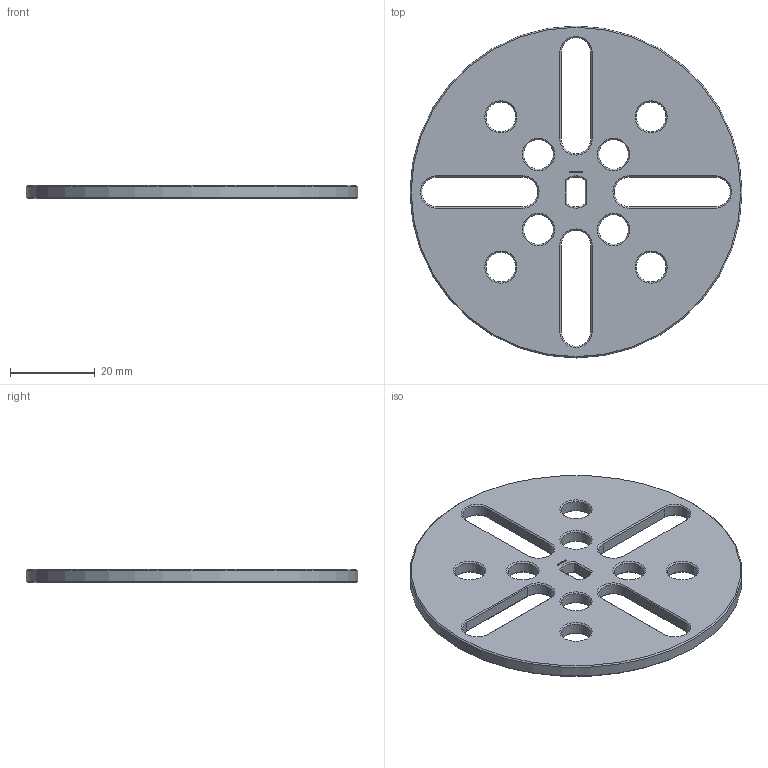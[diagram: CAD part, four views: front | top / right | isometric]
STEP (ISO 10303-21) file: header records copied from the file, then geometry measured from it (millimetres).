
FILE_DESCRIPTION(/* description */ (''),/* implementation_level */ '2;1');
FILE_NAME(/* name */ '/Users/paulokiefe/Desktop/STEMFIE/Fasteners/Washers/Fixed/Washer WSR FXD BU0.25x6.25 - SPN-WSR-0022 v1.step',/* time_stamp */ '2020-09-27T23:19:29+02:00',/* author */ (''),/* organization */ (''),/* preprocessor_version */ 'ST-DEVELOPER v18.1',/* originating_system */ 'Autodesk Translation Framework v9.3.0.1241',/* authorisation */ '');
FILE_SCHEMA (('AUTOMOTIVE_DESIGN { 1 0 10303 214 3 1 1 }'));
Length unit declared in the file: millimetre
Products named in the file (1): Washer WSR FXD BU0.25x6.25 - SPN-WSR-0022
Bounding box: 78.12 x 78.12 x 3.12 mm (x, y, z)
Volume: 11607.3 mm3; surface area: 9392.4 mm2
Topology: 1 solids, 1 shells, 333 faces, 899 edges, 580 vertices
Faces by surface type: plane 276, cone 38, cylinder 19
Full cylindrical faces by diameter (mm): 7 x8, 78.125 x1
Entity records: 10318 total; most frequent: CARTESIAN_POINT 1837, ORIENTED_EDGE 1798, DIRECTION 1635, EDGE_CURVE 899, LINE 815, VECTOR 815, VERTEX_POINT 580, AXIS2_PLACEMENT_3D 410
